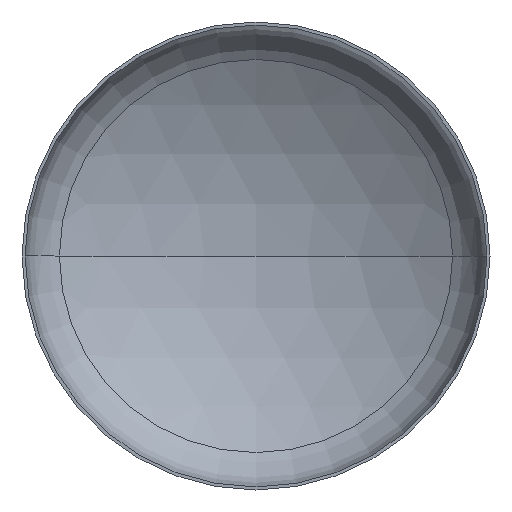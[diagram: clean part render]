
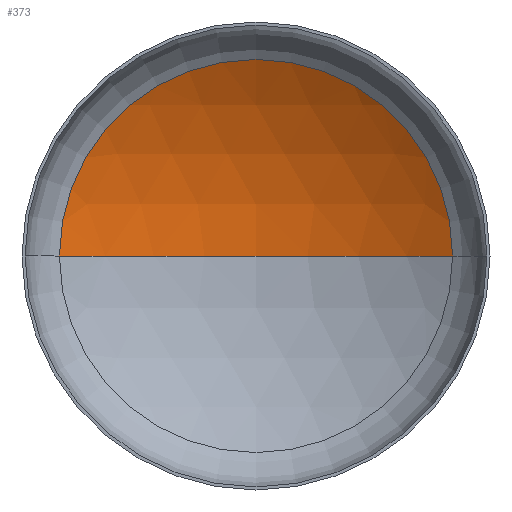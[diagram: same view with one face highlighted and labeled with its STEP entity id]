
A CAD part, front view. The second image highlights one B-rep face of the part: STEP entity #373.
In plain terms, the highlighted spherical face has radius 3600 mm.
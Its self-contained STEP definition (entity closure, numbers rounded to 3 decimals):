
#10 = ORIENTED_EDGE ( 'NONE', *, *, #340, .T. ) ;
#17 = EDGE_LOOP ( 'NONE', ( #45, #10, #35 ) ) ;
#25 = AXIS2_PLACEMENT_3D ( 'NONE', #311, #164, #167 ) ;
#27 = AXIS2_PLACEMENT_3D ( 'NONE', #175, #176, #336 ) ;
#32 = AXIS2_PLACEMENT_3D ( 'NONE', #151, #170, #163 ) ;
#35 = ORIENTED_EDGE ( 'NONE', *, *, #335, .T. ) ;
#45 = ORIENTED_EDGE ( 'NONE', *, *, #343, .F. ) ;
#69 = DIRECTION ( 'NONE',  ( 0., 0., -1. ) ) ;
#101 = VERTEX_POINT ( 'NONE', #255 ) ;
#103 = VERTEX_POINT ( 'NONE', #230 ) ;
#112 = VERTEX_POINT ( 'NONE', #234 ) ;
#113 = CARTESIAN_POINT ( 'NONE',  ( 0., -2382.529, 0. ) ) ;
#151 = CARTESIAN_POINT ( 'NONE',  ( 0., 681.534, 0. ) ) ;
#163 = DIRECTION ( 'NONE',  ( 1., 0., 0. ) ) ;
#164 = DIRECTION ( 'NONE',  ( 0., 0., 1. ) ) ;
#167 = DIRECTION ( 'NONE',  ( 1., 0., 0. ) ) ;
#170 = DIRECTION ( 'NONE',  ( 0., -1., 0. ) ) ;
#175 = CARTESIAN_POINT ( 'NONE',  ( 0., -2382.529, 0. ) ) ;
#176 = DIRECTION ( 'NONE',  ( 0., 0., -1. ) ) ;
#177 = CIRCLE ( 'NONE', #25, 3600. ) ;
#180 = CIRCLE ( 'NONE', #27, 3600. ) ;
#230 = CARTESIAN_POINT ( 'NONE',  ( 0., 1217.471, 0. ) ) ;
#234 = CARTESIAN_POINT ( 'NONE',  ( 1889.845, 681.534, 0. ) ) ;
#255 = CARTESIAN_POINT ( 'NONE',  ( -1889.845, 681.534, 0. ) ) ;
#286 = SPHERICAL_SURFACE ( 'NONE', #349, 3600. ) ;
#294 = DIRECTION ( 'NONE',  ( -1., 0., 0. ) ) ;
#306 = CIRCLE ( 'NONE', #32, 1889.845 ) ;
#311 = CARTESIAN_POINT ( 'NONE',  ( 0., -2382.529, 0. ) ) ;
#335 = EDGE_CURVE ( 'NONE', #112, #101, #306, .T. ) ;
#336 = DIRECTION ( 'NONE',  ( -1., 0., 0. ) ) ;
#340 = EDGE_CURVE ( 'NONE', #103, #112, #180, .T. ) ;
#343 = EDGE_CURVE ( 'NONE', #103, #101, #177, .T. ) ;
#349 = AXIS2_PLACEMENT_3D ( 'NONE', #113, #69, #294 ) ;
#373 = ADVANCED_FACE ( 'NONE', ( #399 ), #286, .F. ) ;
#399 = FACE_OUTER_BOUND ( 'NONE', #17, .T. ) ;
